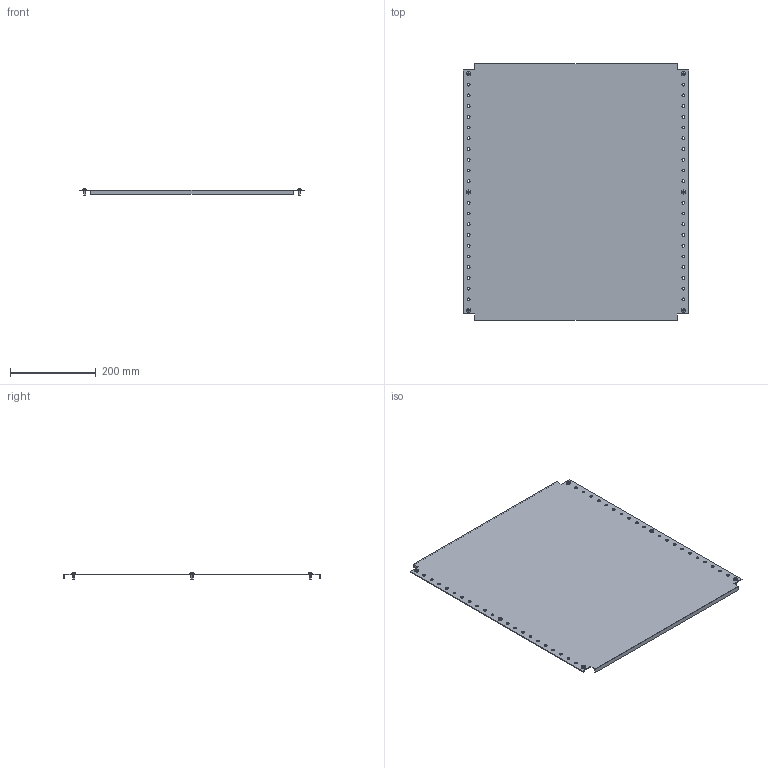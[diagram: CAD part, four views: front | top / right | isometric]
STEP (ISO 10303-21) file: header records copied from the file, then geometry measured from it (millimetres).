
FILE_DESCRIPTION (( 'STEP AP203' ), '1' );
FILE_NAME ('R6MPP06600.STEP', '2025-05-16T08:16:00', ( '' ), ( '' ), 'SwSTEP 2.0', 'SolidWorks 2022', '' );
FILE_SCHEMA (( 'CONFIG_CONTROL_DESIGN' ));
Length unit declared in the file: millimetre
Products named in the file (3): M5x12 DIN 7500 C Torx Zinc_stright; RB.3313.00.00.0 simple_-17; R6MPP06600
Assembly tree (7 placements, depth 2):
  R6MPP06600
    RB.3313.00.00.0 simple_-17
    M5x12 DIN 7500 C Torx Zinc_stright  x6
Bounding box: 525 x 598 x 15.56 mm (x, y, z)
Volume: 575867.6 mm3; surface area: 645399.2 mm2
Topology: 7 solids, 7 shells, 262 faces, 648 edges, 394 vertices
Faces by surface type: cylinder 116, plane 74, cone 24, torus 24, bspline 12, sphere 12
Entity records: 5487 total; most frequent: CARTESIAN_POINT 1019, DIRECTION 898, ORIENTED_EDGE 792, EDGE_CURVE 396, AXIS2_PLACEMENT_3D 362, VERTEX_POINT 259, EDGE_LOOP 235, CIRCLE 212
